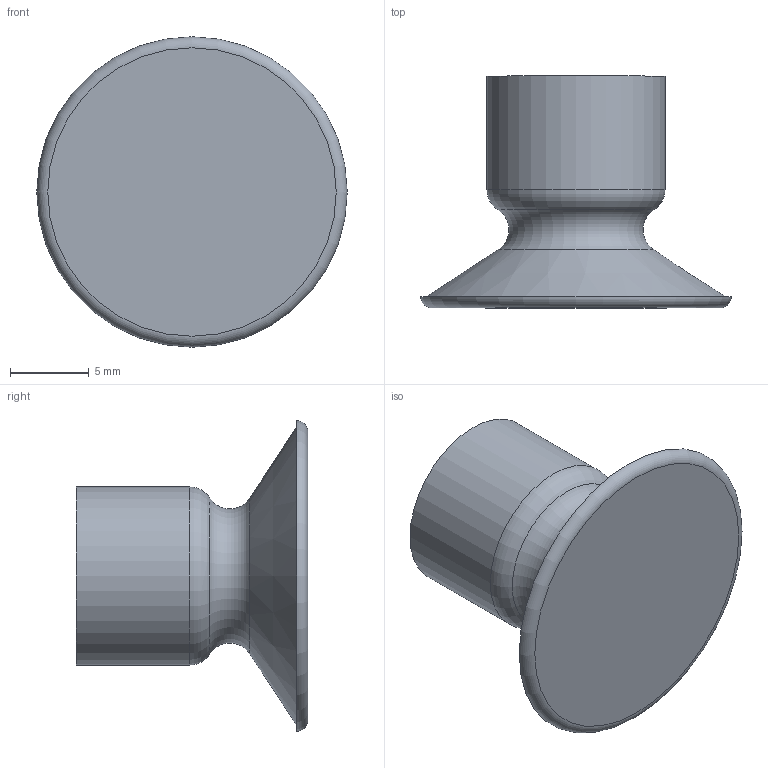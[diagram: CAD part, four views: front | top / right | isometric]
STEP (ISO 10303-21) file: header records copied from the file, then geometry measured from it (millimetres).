
FILE_DESCRIPTION(/* description */ (''),/* implementation_level */ '2;1');
FILE_NAME(/* name */ 'W:\Technik\Konstruktion\CAD-Daten\Vakuumsauger\102_\102.020.355\102.020.355_Kd neu.stp',/* time_stamp */ '2017-07-27T11:24:52+02:00',/* author */ ('DFloßmann'),/* organization */ (''),/* preprocessor_version */ 'ST-DEVELOPER v16.5',/* originating_system */ 'Autodesk Inventor 2017',/* authorisation */ '');
FILE_SCHEMA (('AUTOMOTIVE_DESIGN { 1 0 10303 214 3 1 1 }'));
Length unit declared in the file: millimetre
Products named in the file (1): 102.020.355_Kd neu
Bounding box: 19.7 x 14.7 x 19.7 mm (x, y, z)
Volume: 1307.4 mm3; surface area: 1344.5 mm2
Topology: 1 solids, 1 shells, 19 faces, 30 edges, 18 vertices
Faces by surface type: plane 7, cylinder 5, torus 5, cone 2
Full cylindrical faces by diameter (mm): 3 x1, 6 x1, 7 x1, 8.5 x1, 11.3 x1
Entity records: 404 total; most frequent: DIRECTION 76, CARTESIAN_POINT 56, AXIS2_PLACEMENT_3D 38, EDGE_LOOP 36, ORIENTED_EDGE 36, FACE_OUTER_BOUND 19, ADVANCED_FACE 19, CIRCLE 18
